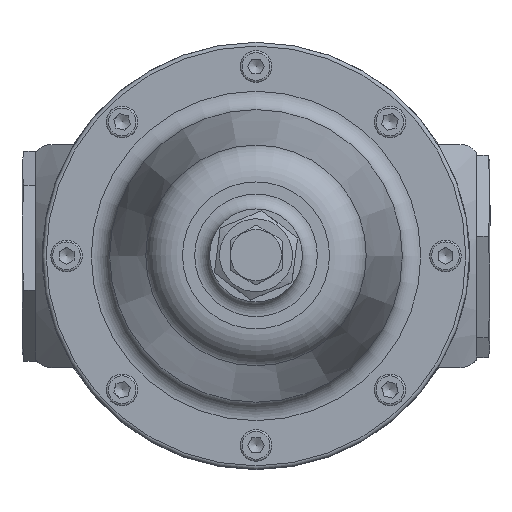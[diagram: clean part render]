
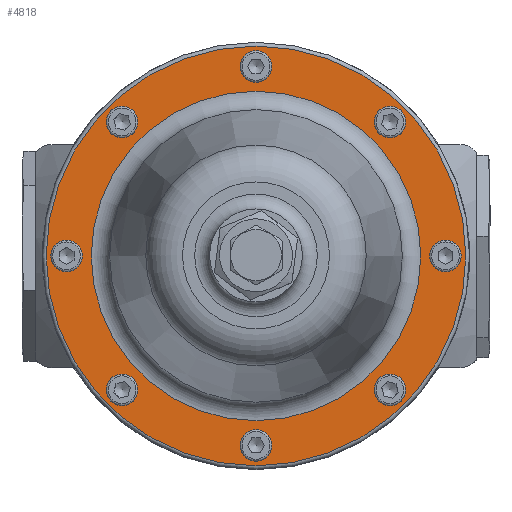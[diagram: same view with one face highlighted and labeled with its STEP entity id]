
A CAD part, top view. The second image highlights one B-rep face of the part: STEP entity #4818.
In plain terms, the highlighted planar face has unit normal (0, 0, 1).
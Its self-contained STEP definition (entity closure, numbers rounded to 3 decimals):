
#233=FACE_BOUND('',#914,.T.);
#234=FACE_BOUND('',#915,.T.);
#235=FACE_BOUND('',#916,.T.);
#236=FACE_BOUND('',#917,.T.);
#237=FACE_BOUND('',#918,.T.);
#238=FACE_BOUND('',#919,.T.);
#239=FACE_BOUND('',#920,.T.);
#240=FACE_BOUND('',#921,.T.);
#241=FACE_BOUND('',#922,.T.);
#399=PLANE('',#5275);
#583=FACE_OUTER_BOUND('',#913,.T.);
#913=EDGE_LOOP('',(#3744));
#914=EDGE_LOOP('',(#3745));
#915=EDGE_LOOP('',(#3746));
#916=EDGE_LOOP('',(#3747));
#917=EDGE_LOOP('',(#3748));
#918=EDGE_LOOP('',(#3749));
#919=EDGE_LOOP('',(#3750));
#920=EDGE_LOOP('',(#3751));
#921=EDGE_LOOP('',(#3752));
#922=EDGE_LOOP('',(#3753));
#1348=CIRCLE('',#5178,3.);
#1350=CIRCLE('',#5182,3.);
#1352=CIRCLE('',#5186,3.);
#1354=CIRCLE('',#5190,3.);
#1356=CIRCLE('',#5194,3.);
#1358=CIRCLE('',#5198,3.);
#1360=CIRCLE('',#5202,3.);
#1362=CIRCLE('',#5206,3.);
#1395=CIRCLE('',#5274,56.5);
#1396=CIRCLE('',#5276,44.346);
#2142=VERTEX_POINT('',#19095);
#2144=VERTEX_POINT('',#19102);
#2146=VERTEX_POINT('',#19109);
#2148=VERTEX_POINT('',#19116);
#2150=VERTEX_POINT('',#19123);
#2152=VERTEX_POINT('',#19130);
#2154=VERTEX_POINT('',#19137);
#2156=VERTEX_POINT('',#19144);
#2236=VERTEX_POINT('',#19828);
#2237=VERTEX_POINT('',#19832);
#2658=EDGE_CURVE('',#2142,#2142,#1348,.T.);
#2661=EDGE_CURVE('',#2144,#2144,#1350,.T.);
#2664=EDGE_CURVE('',#2146,#2146,#1352,.T.);
#2667=EDGE_CURVE('',#2148,#2148,#1354,.T.);
#2670=EDGE_CURVE('',#2150,#2150,#1356,.T.);
#2673=EDGE_CURVE('',#2152,#2152,#1358,.T.);
#2676=EDGE_CURVE('',#2154,#2154,#1360,.T.);
#2679=EDGE_CURVE('',#2156,#2156,#1362,.T.);
#2788=EDGE_CURVE('',#2236,#2236,#1395,.T.);
#2789=EDGE_CURVE('',#2237,#2237,#1396,.T.);
#3744=ORIENTED_EDGE('',*,*,#2788,.F.);
#3745=ORIENTED_EDGE('',*,*,#2658,.T.);
#3746=ORIENTED_EDGE('',*,*,#2661,.T.);
#3747=ORIENTED_EDGE('',*,*,#2664,.T.);
#3748=ORIENTED_EDGE('',*,*,#2667,.T.);
#3749=ORIENTED_EDGE('',*,*,#2670,.T.);
#3750=ORIENTED_EDGE('',*,*,#2673,.T.);
#3751=ORIENTED_EDGE('',*,*,#2676,.T.);
#3752=ORIENTED_EDGE('',*,*,#2679,.T.);
#3753=ORIENTED_EDGE('',*,*,#2789,.F.);
#4818=ADVANCED_FACE('',(#583,#233,#234,#235,#236,#237,#238,#239,#240,#241),
#399,.F.);
#5178=AXIS2_PLACEMENT_3D('',#19096,#5901,#5902);
#5182=AXIS2_PLACEMENT_3D('',#19103,#5910,#5911);
#5186=AXIS2_PLACEMENT_3D('',#19110,#5919,#5920);
#5190=AXIS2_PLACEMENT_3D('',#19117,#5928,#5929);
#5194=AXIS2_PLACEMENT_3D('',#19124,#5937,#5938);
#5198=AXIS2_PLACEMENT_3D('',#19131,#5946,#5947);
#5202=AXIS2_PLACEMENT_3D('',#19138,#5955,#5956);
#5206=AXIS2_PLACEMENT_3D('',#19145,#5964,#5965);
#5274=AXIS2_PLACEMENT_3D('',#19830,#6128,#6129);
#5275=AXIS2_PLACEMENT_3D('',#19831,#6130,#6131);
#5276=AXIS2_PLACEMENT_3D('',#19833,#6132,#6133);
#5901=DIRECTION('center_axis',(0.,0.,-1.));
#5902=DIRECTION('ref_axis',(-0.707,0.707,0.));
#5910=DIRECTION('center_axis',(0.,0.,-1.));
#5911=DIRECTION('ref_axis',(0.,1.,0.));
#5919=DIRECTION('center_axis',(0.,0.,-1.));
#5920=DIRECTION('ref_axis',(0.707,0.707,0.));
#5928=DIRECTION('center_axis',(0.,0.,-1.));
#5929=DIRECTION('ref_axis',(1.,0.,0.));
#5937=DIRECTION('center_axis',(0.,0.,-1.));
#5938=DIRECTION('ref_axis',(0.707,-0.707,0.));
#5946=DIRECTION('center_axis',(0.,0.,-1.));
#5947=DIRECTION('ref_axis',(0.,-1.,0.));
#5955=DIRECTION('center_axis',(0.,0.,-1.));
#5956=DIRECTION('ref_axis',(-0.707,-0.707,0.));
#5964=DIRECTION('center_axis',(0.,0.,-1.));
#5965=DIRECTION('ref_axis',(-1.,0.,0.));
#6128=DIRECTION('center_axis',(0.,0.,-1.));
#6129=DIRECTION('ref_axis',(-1.,0.,0.));
#6130=DIRECTION('center_axis',(0.,0.,-1.));
#6131=DIRECTION('ref_axis',(-1.,0.,0.));
#6132=DIRECTION('center_axis',(0.,0.,1.));
#6133=DIRECTION('ref_axis',(-1.,0.,0.));
#19095=CARTESIAN_POINT('',(-33.941,33.941,110.));
#19096=CARTESIAN_POINT('Origin',(-36.062,36.062,110.));
#19102=CARTESIAN_POINT('',(0.,48.,110.));
#19103=CARTESIAN_POINT('Origin',(0.,51.,110.));
#19109=CARTESIAN_POINT('',(33.941,33.941,110.));
#19110=CARTESIAN_POINT('Origin',(36.062,36.062,110.));
#19116=CARTESIAN_POINT('',(48.,0.,110.));
#19117=CARTESIAN_POINT('Origin',(51.,0.,110.));
#19123=CARTESIAN_POINT('',(33.941,-33.941,110.));
#19124=CARTESIAN_POINT('Origin',(36.062,-36.062,110.));
#19130=CARTESIAN_POINT('',(0.,-48.,110.));
#19131=CARTESIAN_POINT('Origin',(0.,-51.,110.));
#19137=CARTESIAN_POINT('',(-33.941,-33.941,110.));
#19138=CARTESIAN_POINT('Origin',(-36.062,-36.062,110.));
#19144=CARTESIAN_POINT('',(-48.,0.,110.));
#19145=CARTESIAN_POINT('Origin',(-51.,0.,110.));
#19828=CARTESIAN_POINT('',(56.5,0.,110.));
#19830=CARTESIAN_POINT('Origin',(0.,0.,110.));
#19831=CARTESIAN_POINT('Origin',(0.,0.,110.));
#19832=CARTESIAN_POINT('',(44.346,0.,110.));
#19833=CARTESIAN_POINT('Origin',(0.,0.,110.));
